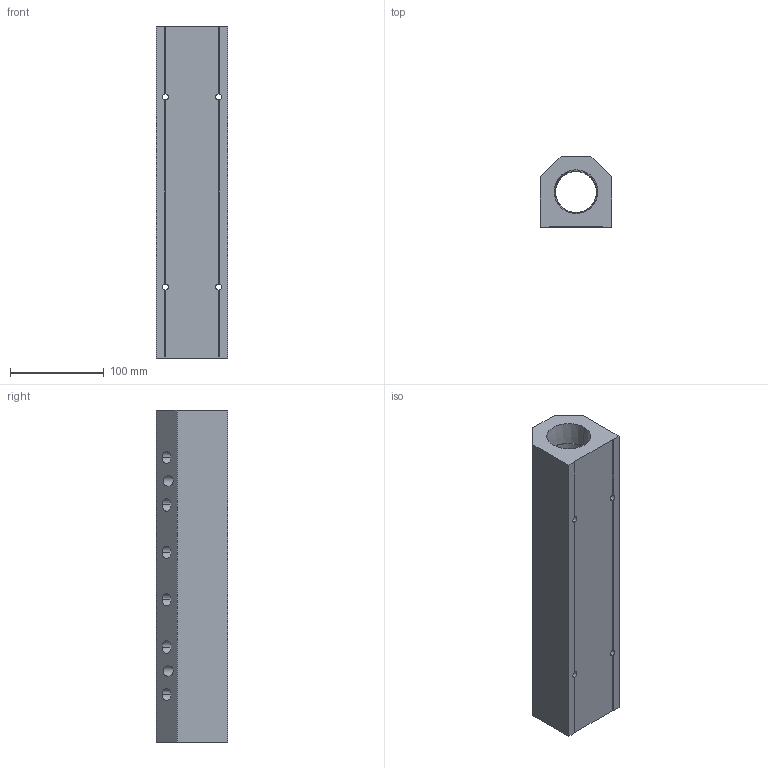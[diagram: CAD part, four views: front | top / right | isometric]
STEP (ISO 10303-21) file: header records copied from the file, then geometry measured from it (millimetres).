
FILE_DESCRIPTION (( 'STEP AP214' ), '1' );
FILE_NAME ('ALM6BCD-N4N24-355R.step', '2022-02-07T07:39:48', ( '' ), ( '' ), 'SwSTEP 2.0', 'SolidWorks 2020', '' );
FILE_SCHEMA (( 'AUTOMOTIVE_DESIGN' ));
Length unit declared in the file: millimetre
Products named in the file (1): ALM6BCD-N4N24-355R
Bounding box: 76.2 x 76.2 x 355 mm (x, y, z)
Volume: 1281385.7 mm3; surface area: 168617.9 mm2
Topology: 1 solids, 1 shells, 355 faces, 949 edges, 630 vertices
Faces by surface type: plane 221, bspline 76, cone 40, cylinder 18
Entity records: 20693 total; most frequent: CARTESIAN_POINT 8897, ORIENTED_EDGE 1898, DIRECTION 1377, EDGE_CURVE 949, LINE 673, VECTOR 673, VERTEX_POINT 630, EDGE_LOOP 435
